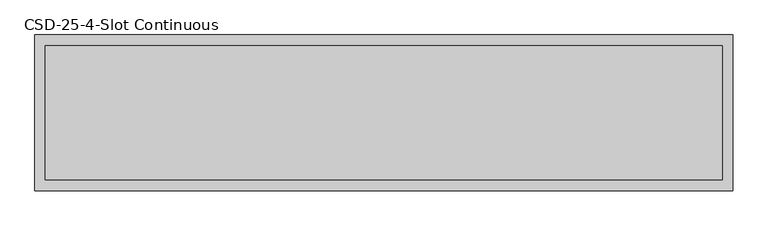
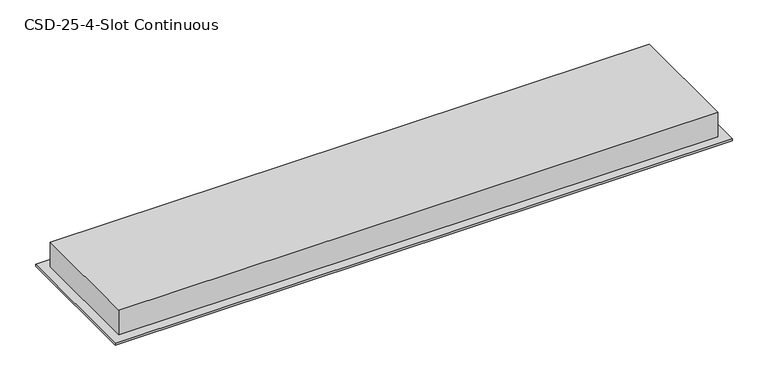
"""IFC4 building model written with IfcOpenShell, lengths in millimetres: air terminal geometry, DC_Holyoake_MEQ_CSD-25-4-MF_Slot_Continuous_14 : CSD-25-4-Slot Continuous."""

from ifc_helpers import new_model, si_unit, origin, place, context, project, spatial, faceted_brep, source, transform, mapped, element, save


def csd_25_4_slot_continuous_c072d293(model_context):
    return source(origin(), model_context, "Body", "Brep", [
        faceted_brep([(500.0, 111.5, 3.2), (-500.0, 111.5, 3.2), (-500.0, -111.5, 3.2), (500.0, -111.5, 3.2), (-485.0, 96.0, 3.2), (485.0, 96.0, 3.2), (485.0, -96.0, 3.2), (-485.0, -96.0, 3.2), (500.0, 111.5, 0.0), (500.0, -111.5, 0.0), (-500.0, -111.5, 0.0), (-500.0, 111.5, 0.0), (475.0, -9.5, 0.0), (-475.0, -9.5, 0.0), (-475.0, -34.0, 0.0), (475.0, -34.0, 0.0), (-475.0, -53.0, 0.0), (-475.0, -78.0, 0.0), (475.0, -78.0, 0.0), (475.0, -53.0, 0.0), (475.0, 9.5, 0.0), (475.0, 34.5, 0.0), (-475.0, 34.5, 0.0), (-475.0, 9.5, 0.0), (-475.0, 53.5, 0.0), (475.0, 53.5, 0.0), (475.0, 78.0, 0.0), (-475.0, 78.0, 0.0), (485.0, 96.0, 45.0), (-485.0, 96.0, 45.0), (-485.0, -96.0, 45.0), (485.0, -96.0, 45.0), (475.0, -9.5, 30.0), (475.0, -34.0, 30.0), (-475.0, -34.0, 30.0), (-475.0, -9.5, 30.0), (-475.0, -53.0, 30.0), (475.0, -53.0, 30.0), (475.0, -78.0, 30.0), (-475.0, -78.0, 30.0), (475.0, 9.5, 30.0), (-475.0, 9.5, 30.0), (-475.0, 34.5, 30.0), (475.0, 34.5, 30.0), (-475.0, 53.5, 30.0), (-475.0, 78.0, 30.0), (475.0, 78.0, 30.0), (475.0, 53.5, 30.0)], [[[0, 1, 2, 3], [4, 5, 6, 7]], [[8, 9, 10, 11], [12, 13, 14, 15], [16, 17, 18, 19], [20, 21, 22, 23], [24, 25, 26, 27]], [[1, 0, 8, 11]], [[2, 1, 11, 10]], [[3, 2, 10, 9]], [[0, 3, 9, 8]], [[28, 29, 30, 31]], [[29, 28, 5, 4]], [[30, 29, 4, 7]], [[31, 30, 7, 6]], [[28, 31, 6, 5]], [[32, 33, 34, 35]], [[36, 37, 38, 39]], [[40, 41, 42, 43]], [[44, 45, 46, 47]], [[32, 35, 13, 12]], [[35, 34, 14, 13]], [[33, 32, 12, 15]], [[34, 33, 15, 14]], [[36, 39, 17, 16]], [[39, 38, 18, 17]], [[38, 37, 19, 18]], [[37, 36, 16, 19]], [[40, 43, 21, 20]], [[43, 42, 22, 21]], [[42, 41, 23, 22]], [[41, 40, 20, 23]], [[44, 47, 25, 24]], [[47, 46, 26, 25]], [[46, 45, 27, 26]], [[45, 44, 24, 27]]]),
    ])


if __name__ == "__main__":
    model = new_model("IFC4")
    model_context = context("Model", 3, world=origin())
    ifc_project = project(units=[si_unit("LENGTHUNIT", "METRE", prefix="MILLI")], contexts=[model_context])
    site = spatial("IfcSite", under=ifc_project)
    building = spatial("IfcBuilding", under=site)
    placement = place(None, origin())
    csd_25_4_slot_continuous_shape = csd_25_4_slot_continuous_c072d293(model_context)
    element("IfcAirTerminal", 1, ObjectType="DC_Holyoake_MEQ_CSD-25-4-MF_Slot_Continuous_14 : CSD-25-4-Slot Continuous", at=placement, inside=building, context=model_context, shape_type="MappedRepresentation", body=[
        mapped(csd_25_4_slot_continuous_shape, transform((0.0, 0.0, 0.0), x_axis=(1.0, 0.0, 0.0), y_axis=(0.0, 1.0, 0.0), z_axis=(0.0, 0.0, 1.0))),
    ])
    save(model, "model.ifc")
